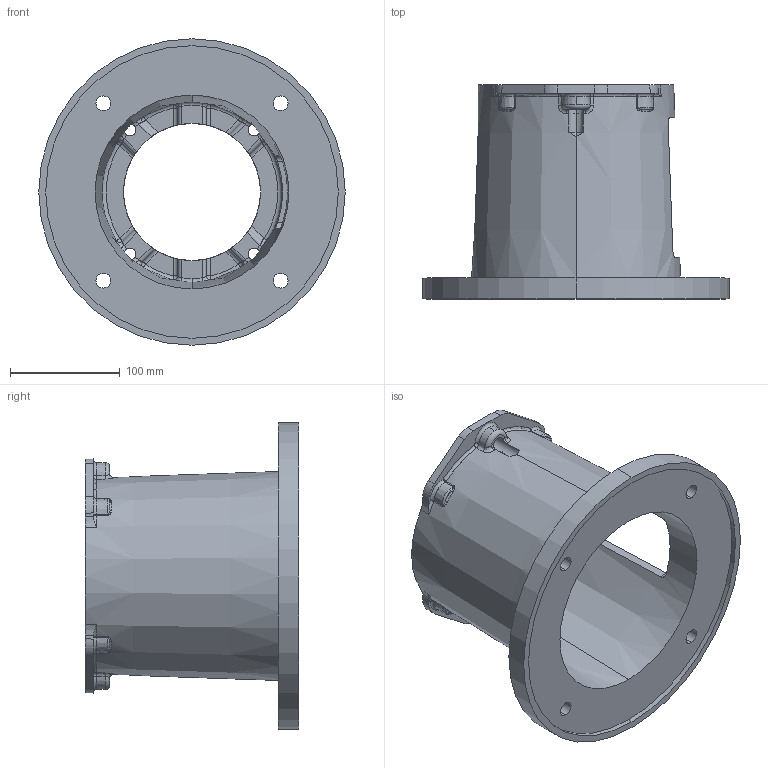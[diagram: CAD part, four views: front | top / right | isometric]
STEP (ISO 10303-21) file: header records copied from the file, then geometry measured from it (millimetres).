
FILE_DESCRIPTION (( 'STEP AP203' ), '1' );
FILE_NAME ('M28475125M.STEP', '2015-01-19T16:36:41', ( '' ), ( '' ), 'SwSTEP 2.0', 'SolidWorks 2014', '' );
FILE_SCHEMA (( 'CONFIG_CONTROL_DESIGN' ));
Length unit declared in the file: inch
Products named in the file (1): M28475125M
Bounding box: 279.4 x 195.07 x 279.4 mm (x, y, z)
Volume: 1355036.3 mm3; surface area: 317446.1 mm2
Topology: 1 solids, 1 shells, 322 faces, 862 edges, 514 vertices
Faces by surface type: cylinder 86, torus 76, bspline 64, plane 50, sphere 24, cone 22
Entity records: 14121 total; most frequent: CARTESIAN_POINT 6699, ORIENTED_EDGE 1676, DIRECTION 1440, EDGE_CURVE 838, AXIS2_PLACEMENT_3D 643, VERTEX_POINT 514, CIRCLE 384, EDGE_LOOP 342
